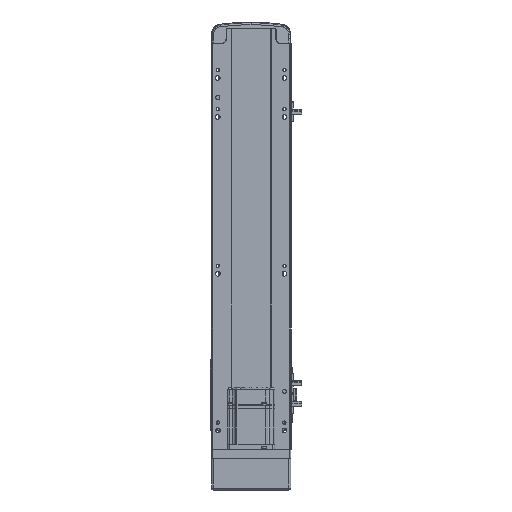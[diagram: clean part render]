
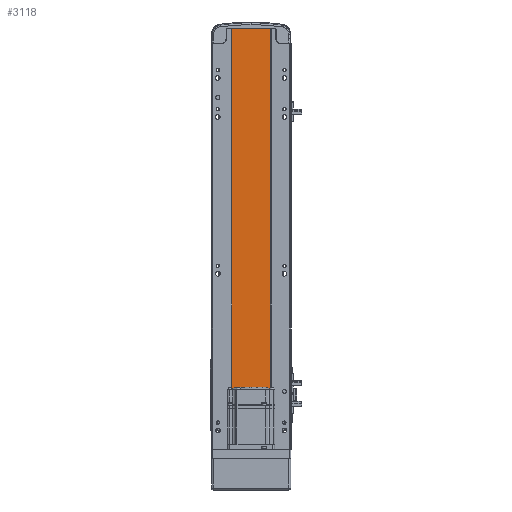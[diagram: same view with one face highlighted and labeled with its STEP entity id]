
A CAD part, front view. The second image highlights one B-rep face of the part: STEP entity #3118.
In plain terms, the highlighted planar face has unit normal (0, -1, 0).
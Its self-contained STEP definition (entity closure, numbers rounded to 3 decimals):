
#3118 = ADVANCED_FACE ( 'NONE', ( #9878 ), #59655, .F. ) ;
#3275 = CARTESIAN_POINT ( 'NONE',  ( -24.5, 2., 537. ) ) ;
#3353 = DIRECTION ( 'NONE',  ( 0., 0., -1. ) ) ;
#5281 = EDGE_LOOP ( 'NONE', ( #43649, #40854, #8993, #34991 ) ) ;
#5898 = VERTEX_POINT ( 'NONE', #22523 ) ;
#6396 = EDGE_CURVE ( 'NONE', #5898, #34125, #33956, .T. ) ;
#8993 = ORIENTED_EDGE ( 'NONE', *, *, #6396, .F. ) ;
#9456 = LINE ( 'NONE', #43211, #56881 ) ;
#9878 = FACE_OUTER_BOUND ( 'NONE', #5281, .T. ) ;
#11963 = DIRECTION ( 'NONE',  ( 1., 0., 0. ) ) ;
#12883 = VECTOR ( 'NONE', #58957, 1000. ) ;
#13251 = EDGE_CURVE ( 'NONE', #34125, #47884, #22916, .T. ) ;
#13602 = CARTESIAN_POINT ( 'NONE',  ( 0., 2., 0. ) ) ;
#15777 = DIRECTION ( 'NONE',  ( 0., 0., -1. ) ) ;
#16858 = EDGE_CURVE ( 'NONE', #5898, #52161, #9456, .T. ) ;
#18540 = DIRECTION ( 'NONE',  ( 0., 1., 0. ) ) ;
#19212 = EDGE_CURVE ( 'NONE', #52161, #47884, #33616, .T. ) ;
#21447 = VECTOR ( 'NONE', #3353, 1000. ) ;
#21798 = VECTOR ( 'NONE', #11963, 1000. ) ;
#22523 = CARTESIAN_POINT ( 'NONE',  ( -24.5, 2., 537. ) ) ;
#22916 = LINE ( 'NONE', #34897, #21447 ) ;
#22969 = CARTESIAN_POINT ( 'NONE',  ( 24.5, 2., 537. ) ) ;
#33616 = LINE ( 'NONE', #13602, #12883 ) ;
#33956 = LINE ( 'NONE', #3275, #21798 ) ;
#34125 = VERTEX_POINT ( 'NONE', #22969 ) ;
#34897 = CARTESIAN_POINT ( 'NONE',  ( 24.5, 2., 537. ) ) ;
#34991 = ORIENTED_EDGE ( 'NONE', *, *, #16858, .T. ) ;
#35832 = CARTESIAN_POINT ( 'NONE',  ( 24.5, 2., 0. ) ) ;
#36358 = CARTESIAN_POINT ( 'NONE',  ( 0., 2., 537. ) ) ;
#37550 = AXIS2_PLACEMENT_3D ( 'NONE', #36358, #18540, #59461 ) ;
#38657 = CARTESIAN_POINT ( 'NONE',  ( -24.5, 2., 0. ) ) ;
#40854 = ORIENTED_EDGE ( 'NONE', *, *, #13251, .F. ) ;
#43211 = CARTESIAN_POINT ( 'NONE',  ( -24.5, 2., 537. ) ) ;
#43649 = ORIENTED_EDGE ( 'NONE', *, *, #19212, .T. ) ;
#47884 = VERTEX_POINT ( 'NONE', #35832 ) ;
#52161 = VERTEX_POINT ( 'NONE', #38657 ) ;
#56881 = VECTOR ( 'NONE', #15777, 1000. ) ;
#58957 = DIRECTION ( 'NONE',  ( 1., 0., 0. ) ) ;
#59461 = DIRECTION ( 'NONE',  ( 0., 0., 1. ) ) ;
#59655 = PLANE ( 'NONE',  #37550 ) ;
